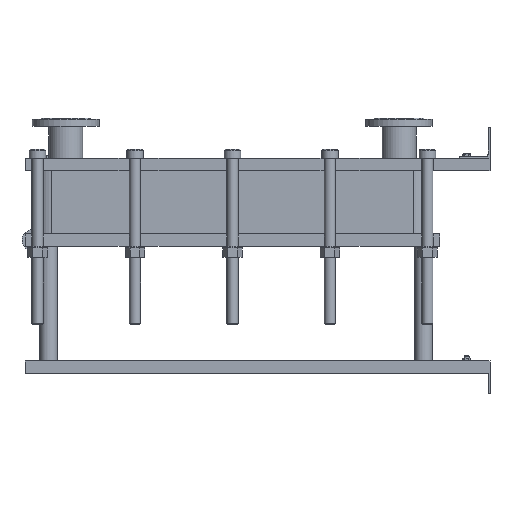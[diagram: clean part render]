
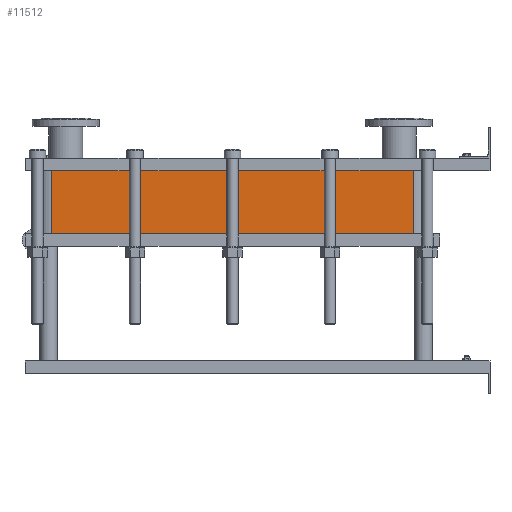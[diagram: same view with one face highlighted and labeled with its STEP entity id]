
A CAD part, left-side view. The second image highlights one B-rep face of the part: STEP entity #11512.
In plain terms, the highlighted planar face has unit normal (-1, 0, 0).
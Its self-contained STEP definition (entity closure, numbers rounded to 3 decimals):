
#1129=LINE('',#23232,#2102);
#1130=LINE('',#23236,#2103);
#1131=LINE('',#23238,#2104);
#1132=LINE('',#23239,#2105);
#2102=VECTOR('',#15887,10.);
#2103=VECTOR('',#15892,10.);
#2104=VECTOR('',#15893,10.);
#2105=VECTOR('',#15894,10.);
#3267=FACE_OUTER_BOUND('',#4093,.T.);
#4093=EDGE_LOOP('',(#10103,#10104,#10105,#10106));
#5642=VERTEX_POINT('',#23229);
#5643=VERTEX_POINT('',#23231);
#5644=VERTEX_POINT('',#23235);
#5645=VERTEX_POINT('',#23237);
#7159=EDGE_CURVE('',#5643,#5642,#1129,.T.);
#7161=EDGE_CURVE('',#5642,#5644,#1130,.T.);
#7162=EDGE_CURVE('',#5645,#5644,#1131,.T.);
#7163=EDGE_CURVE('',#5645,#5643,#1132,.T.);
#10103=ORIENTED_EDGE('',*,*,#7161,.T.);
#10104=ORIENTED_EDGE('',*,*,#7162,.F.);
#10105=ORIENTED_EDGE('',*,*,#7163,.T.);
#10106=ORIENTED_EDGE('',*,*,#7159,.T.);
#10857=PLANE('',#12751);
#11512=ADVANCED_FACE('',(#3267),#10857,.T.);
#12751=AXIS2_PLACEMENT_3D('',#23234,#15890,#15891);
#15887=DIRECTION('',(0.,0.,-1.));
#15890=DIRECTION('center_axis',(-1.,0.,0.));
#15891=DIRECTION('ref_axis',(0.,1.,0.));
#15892=DIRECTION('',(0.,-1.,0.));
#15893=DIRECTION('',(0.,0.,-1.));
#15894=DIRECTION('',(0.,1.,0.));
#23229=CARTESIAN_POINT('',(-200.,1414.,-203.55));
#23231=CARTESIAN_POINT('',(-200.,1414.,0.));
#23232=CARTESIAN_POINT('',(-200.,1414.,0.));
#23234=CARTESIAN_POINT('Origin',(-200.,248.,0.));
#23235=CARTESIAN_POINT('',(-200.,248.,-203.55));
#23236=CARTESIAN_POINT('',(-200.,539.5,-203.55));
#23237=CARTESIAN_POINT('',(-200.,248.,0.));
#23238=CARTESIAN_POINT('',(-200.,248.,0.));
#23239=CARTESIAN_POINT('',(-200.,248.,0.));
